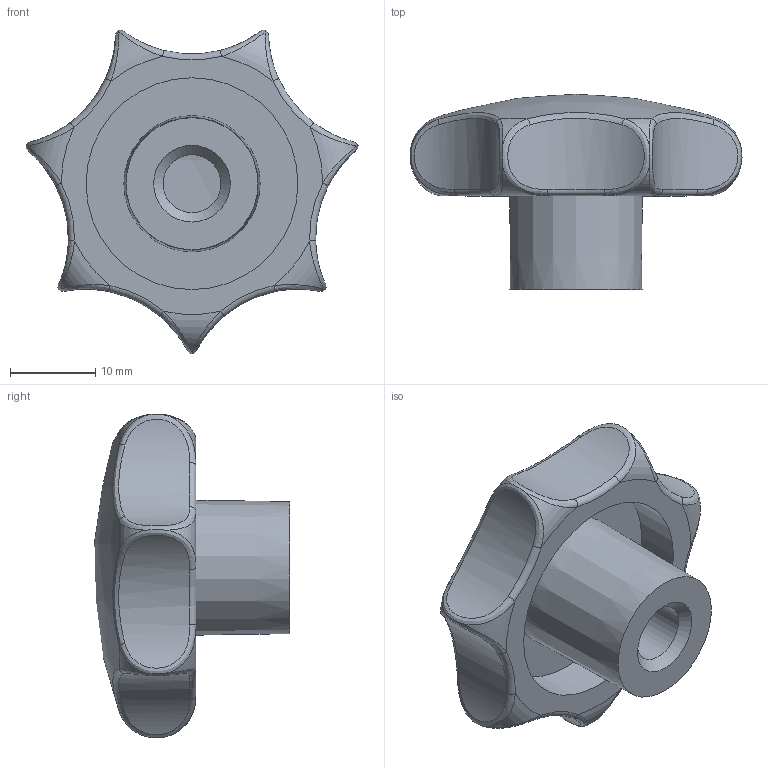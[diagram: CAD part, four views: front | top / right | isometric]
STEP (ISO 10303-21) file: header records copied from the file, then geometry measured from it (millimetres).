
FILE_DESCRIPTION(/* description */ ('HANDWHEEL M8'),/* implementation_level */ '2;1');
FILE_NAME(/* name */ '\\carryline.intra\privat\users\mathias\Desktop\Tillfälliga filer\300-3250.stp',/* time_stamp */ '2018-11-30T09:56:37+01:00',/* author */ ('PL'),/* organization */ ('CARRYLINE'),/* preprocessor_version */ 'ST-DEVELOPER v17',/* originating_system */ 'Autodesk Inventor 2018',/* authorisation */ '');
FILE_SCHEMA (('AUTOMOTIVE_DESIGN { 1 0 10303 214 3 1 1 }'));
Length unit declared in the file: millimetre
Products named in the file (1): 300-3250
Bounding box: 38.98 x 22.92 x 38.03 mm (x, y, z)
Volume: 9066.3 mm3; surface area: 4374.8 mm2
Topology: 1 solids, 1 shells, 58 faces, 144 edges, 90 vertices
Faces by surface type: torus 21, bspline 21, cylinder 9, cone 3, plane 3, sphere 1
Full cylindrical faces by diameter (mm): 6.8 x1, 24.873 x1
Entity records: 7635 total; most frequent: CARTESIAN_POINT 6382, ORIENTED_EDGE 286, DIRECTION 219, EDGE_CURVE 143, AXIS2_PLACEMENT_3D 107, VERTEX_POINT 90, B_SPLINE_CURVE_WITH_KNOTS 69, CIRCLE 69
